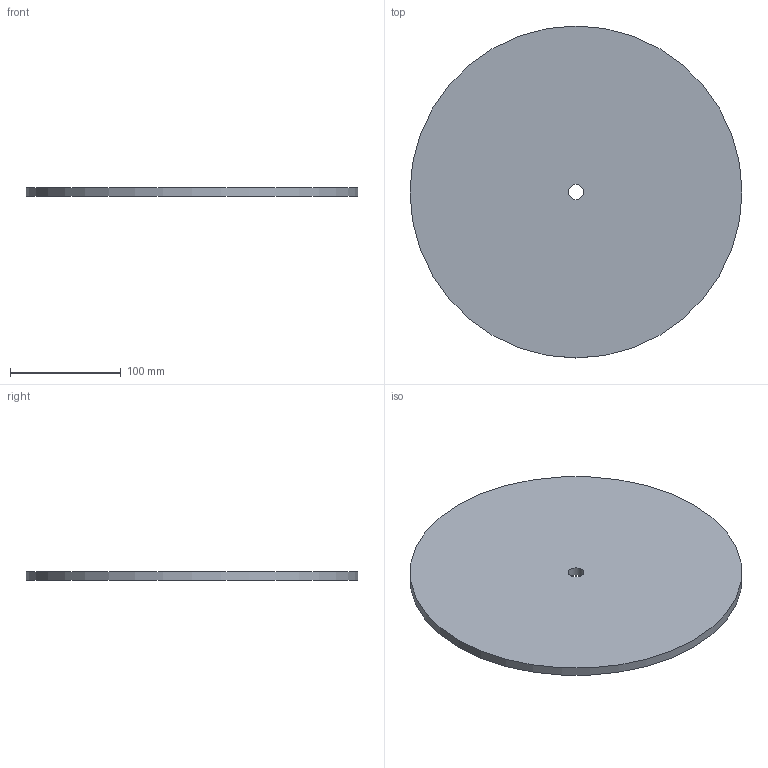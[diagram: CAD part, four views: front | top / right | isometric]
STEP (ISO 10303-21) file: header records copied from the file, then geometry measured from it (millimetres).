
FILE_DESCRIPTION(('Open CASCADE Model'),'2;1');
FILE_NAME('Open CASCADE Shape Model','2026-10-04T02:31:34',('Author'),( 'Open CASCADE'),'Open CASCADE STEP processor 8.0','Open CASCADE 8.0' ,'Unknown');
FILE_SCHEMA(('AUTOMOTIVE_DESIGN { 1 0 10303 214 1 1 1 1 }'));
Length unit declared in the file: millimetre
Products named in the file (1): Open CASCADE STEP translator 8.0 20
Bounding box: 300 x 300 x 8 mm (x, y, z)
Volume: 564255.2 mm3; surface area: 148955.5 mm2
Topology: 1 solids, 1 shells, 4 faces, 6 edges, 4 vertices
Faces by surface type: cylinder 2, plane 2
Full cylindrical faces by diameter (mm): 14 x1, 300 x1
Entity records: 186 total; most frequent: DIRECTION 32, CARTESIAN_POINT 27, ORIENTED_EDGE 12, PCURVE 12, DEFINITIONAL_REPRESENTATION 12, LINE 10, VECTOR 10, AXIS2_PLACEMENT_3D 9
